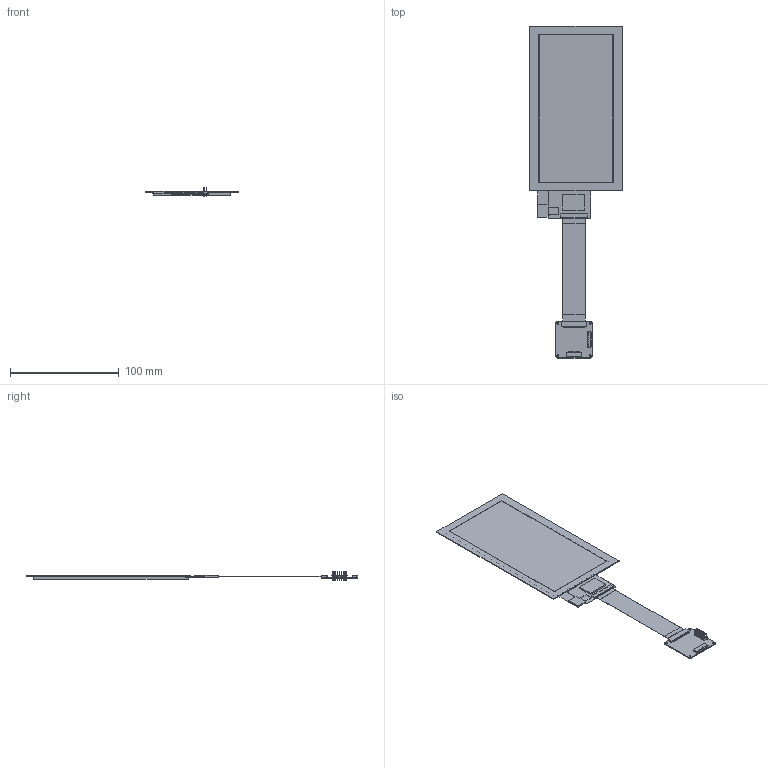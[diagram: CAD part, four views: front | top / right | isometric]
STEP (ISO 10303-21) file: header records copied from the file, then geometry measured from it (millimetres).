
FILE_DESCRIPTION((''),'2;1');
FILE_NAME('TS060WVV02CP-I1360A-V00-241219','2024-12-19T10:47:32',('Shaozi'),(''),'CREO PARAMETRIC BY PTC INC, 2024063','CREO PARAMETRIC BY PTC INC, 2024063','');
FILE_SCHEMA(('AUTOMOTIVE_DESIGN { 1 0 10303 214 1 1 1 1 }'));
Length unit declared in the file: millimetre
Products named in the file (1): TS060WVV02CP-I1360A-V00-241219
Bounding box: 85.8 x 305.62 x 8.8 mm (x, y, z)
Surface area: 58816.2 mm2 (no closed solid volume)
Topology: 0 solids, 27 shells, 353 faces, 1111 edges, 782 vertices
Faces by surface type: plane 325, cylinder 28
Entity records: 13906 total; most frequent: CARTESIAN_POINT 2246, DIRECTION 1893, ORIENTED_EDGE 1874, EDGE_CURVE 1111, VECTOR 1035, LINE 1035, VERTEX_POINT 782, AXIS2_PLACEMENT_3D 429
